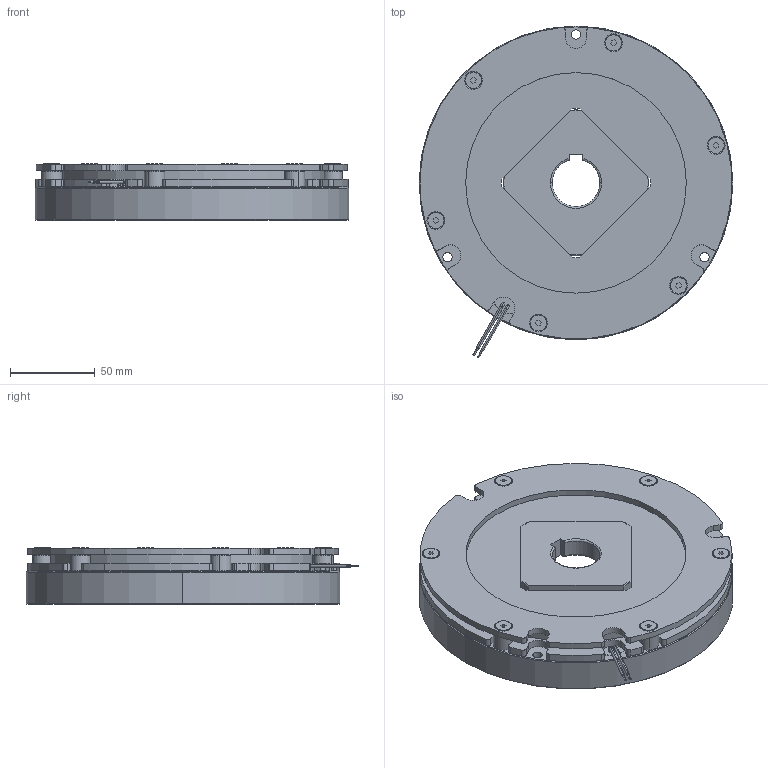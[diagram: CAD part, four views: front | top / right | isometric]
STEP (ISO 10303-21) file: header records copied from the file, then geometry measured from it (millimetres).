
FILE_DESCRIPTION (( 'STEP AP214' ), '1' );
FILE_NAME ('ÌÞÚ°·_BXR-16-10.STEP', '2017-07-31T09:49:18', ( 'MIKI' ), ( '' ), 'SwSTEP 2.0', 'SolidWorks 2012', '' );
FILE_SCHEMA (( 'AUTOMOTIVE_DESIGN' ));
Length unit declared in the file: millimetre
Products named in the file (1): 枌痚愷BXR-16-10
Bounding box: 185 x 195.69 x 33.11 mm (x, y, z)
Volume: 612583.7 mm3; surface area: 135018.3 mm2
Topology: 1 solids, 7 shells, 471 faces, 1168 edges, 747 vertices
Faces by surface type: cylinder 229, plane 141, cone 89, torus 12
Entity records: 19484 total; most frequent: DIRECTION 2671, CARTESIAN_POINT 2473, ORIENTED_EDGE 2336, EDGE_CURVE 1168, AXIS2_PLACEMENT_3D 1053, VERTEX_POINT 747, CIRCLE 581, EDGE_LOOP 565
